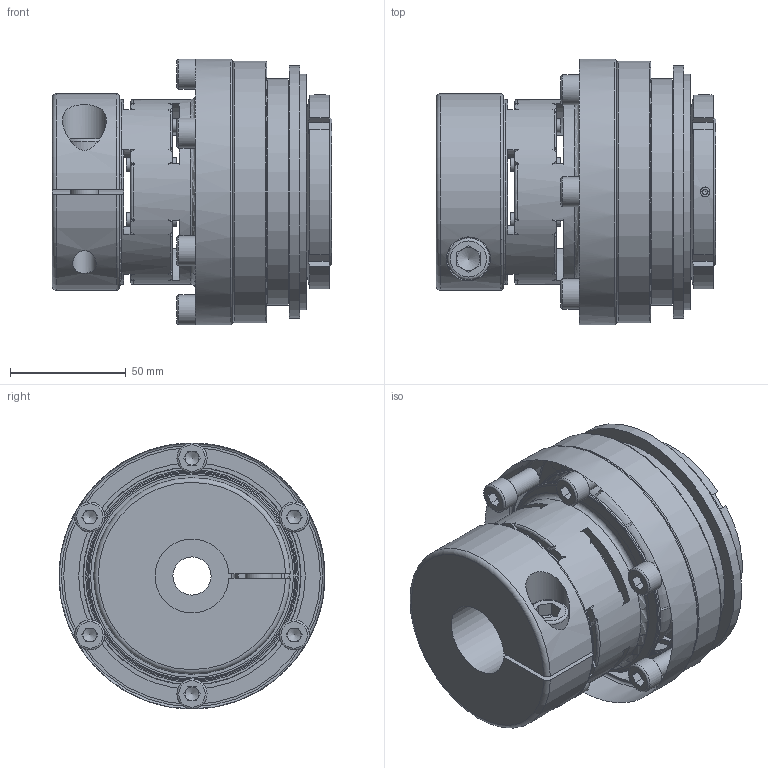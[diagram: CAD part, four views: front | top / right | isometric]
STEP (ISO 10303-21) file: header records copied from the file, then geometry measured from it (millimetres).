
FILE_DESCRIPTION( ( 'Unknown' ), '1' );
FILE_NAME( 'F:/JAKOB-STEP+IGES-Dateien/STEP-Dateien/SKW-EK/SKW-EK 330.stp', 'Unknown', ( 'Unknown' ), ( 'Unknown' ), 'PSStep 10.1', 'Unknown', ' ' );
FILE_SCHEMA( ( 'AUTOMOTIVE_DESIGN { 1 0 10303 214 1 1 1 1 }' ) );
Length unit declared in the file: millimetre
Products named in the file (1): kt100627
Bounding box: 121 x 115 x 115 mm (x, y, z)
Volume: 696624.3 mm3; surface area: 139159 mm2
Topology: 1 solids, 9 shells, 486 faces, 1361 edges, 875 vertices
Faces by surface type: plane 198, cylinder 139, torus 70, cone 63, sphere 12, bspline 4
Full cylindrical faces by diameter (mm): 2.5 x2, 4.2 x3, 6 x8, 6.8 x6, 8 x6, 8.6 x6, 10.2 x1, 12 x1, 12.5 x1, 13 x7, 16.5 x1, 18 x1, 19 x1, 21 x1, 38 x2, 47.5 x1, 49 x1, 49.8 x1, 50 x2, 62.5 x2, 65 x2, 65.3 x1, 78.1 x2, 80 x1, 90 x3, 94 x2, 98 x1, 102 x1, 109 x1, 113 x1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
Entity records: 20362 total; most frequent: CARTESIAN_POINT 5093, DIRECTION 2354, ORIENTED_EDGE 2272, EDGE_CURVE 1136, AXIS2_PLACEMENT_3D 1007, VERTEX_POINT 784, EDGE_LOOP 675, FACE_OUTER_BOUND 567
